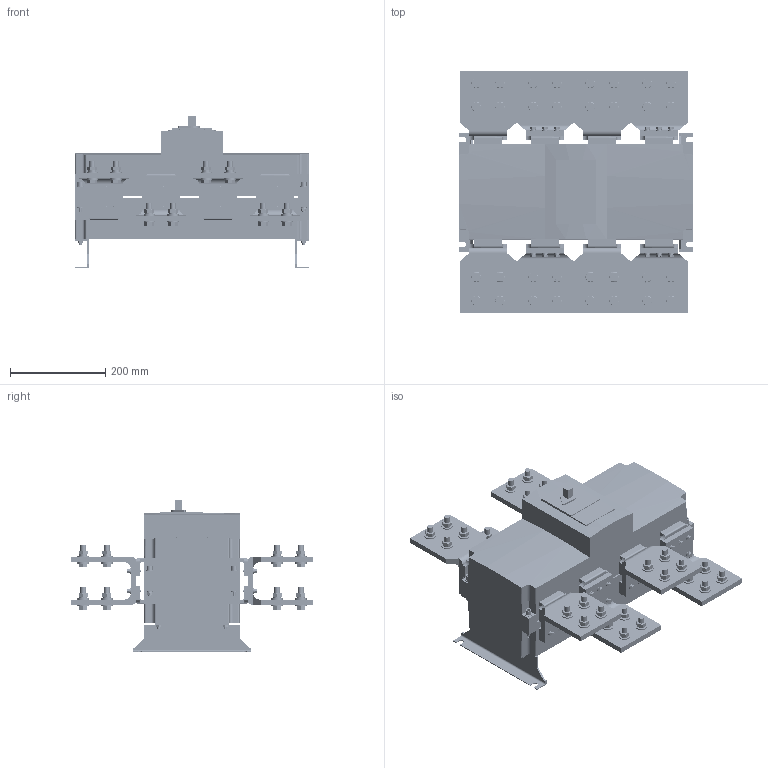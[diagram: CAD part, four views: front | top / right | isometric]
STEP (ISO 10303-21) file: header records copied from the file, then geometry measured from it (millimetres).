
FILE_DESCRIPTION((''),'2;1');
FILE_NAME('NH40-3150-4_ASM','2021-03-15T',('wangpeng'),(''),'PRO/ENGINEER BY PARAMETRIC TECHNOLOGY CORPORATION, 2009460','PRO/ENGINEER BY PARAMETRIC TECHNOLOGY CORPORATION, 2009460','');
FILE_SCHEMA(('AUTOMOTIVE_DESIGN { 1 0 10303 214 1 1 1 1 }'));
Length unit declared in the file: millimetre
Products named in the file (19): BANNH40-3150-4; DZNH40-3150-4; AZBNH40-3150-4; LJBNH40-3150-4; CTNH40-3150-4; SGNH40-3150-4; FZNH40-3150-4; ZSJNH40-3150-4; PDQ12; LSM12; TDQ12; LMM12; PDQ8; PDQ6; TDQ6; LSM6; NLFLSM6; LMM6; NH40-3150-4_ASM
Assembly tree (355 placements, depth 2):
  NH40-3150-4_ASM
    BANNH40-3150-4  x2
    DZNH40-3150-4
    AZBNH40-3150-4  x2
    LJBNH40-3150-4  x8
    CTNH40-3150-4  x8
    SGNH40-3150-4
    FZNH40-3150-4
    ZSJNH40-3150-4
    PDQ12  x64
    LSM12  x32
    TDQ12  x32
    LMM12  x32
    PDQ8  x4
    PDQ6  x52
    TDQ6  x52
    LSM6  x52
    NLFLSM6  x4
    LMM6  x7
Bounding box: 492 x 508 x 321 mm (x, y, z)
Volume: 21433766.7 mm3; surface area: 2231290.2 mm2
Topology: 355 solids, 355 shells, 4531 faces, 10176 edges, 6448 vertices
Faces by surface type: plane 2090, cylinder 1469, cone 972
Entity records: 17176 total; most frequent: CARTESIAN_POINT 3317, DIRECTION 2625, ORIENTED_EDGE 1902, AXIS2_PLACEMENT_3D 1026, EDGE_CURVE 951, VERTEX_POINT 620, VECTOR 573, LINE 573
